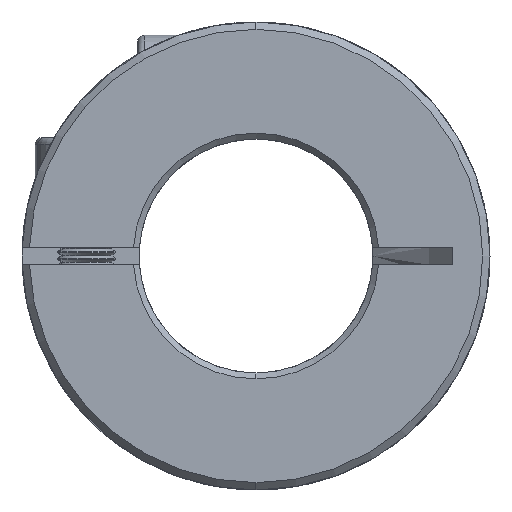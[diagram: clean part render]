
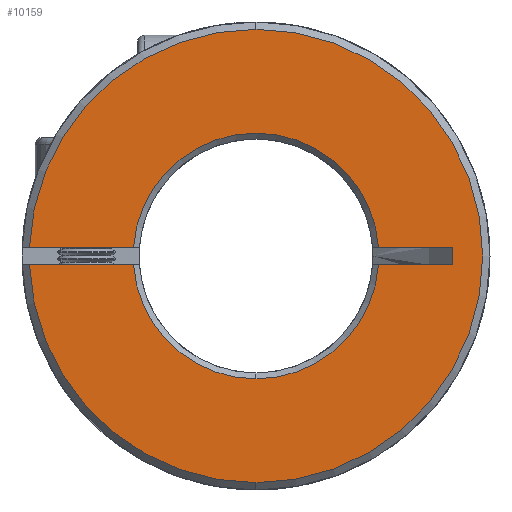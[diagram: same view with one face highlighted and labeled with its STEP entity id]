
A CAD part, front view. The second image highlights one B-rep face of the part: STEP entity #10159.
In plain terms, the highlighted planar face has unit normal (0, -1, 0).
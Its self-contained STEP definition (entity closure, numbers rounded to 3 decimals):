
#126 = FACE_OUTER_BOUND ( 'NONE', #6751, .T. ) ;
#154 = VERTEX_POINT ( 'NONE', #10832 ) ;
#166 = DIRECTION ( 'NONE',  ( 0., 0., -1. ) ) ;
#179 = DIRECTION ( 'NONE',  ( 0., 0., 1. ) ) ;
#469 = CARTESIAN_POINT ( 'NONE',  ( -8.379, 0., -0.6 ) ) ;
#508 = VERTEX_POINT ( 'NONE', #3683 ) ;
#513 = VERTEX_POINT ( 'NONE', #5359 ) ;
#558 = ORIENTED_EDGE ( 'NONE', *, *, #10932, .T. ) ;
#607 = CARTESIAN_POINT ( 'NONE',  ( 0., 0., 0. ) ) ;
#686 = DIRECTION ( 'NONE',  ( 1., 0., 0. ) ) ;
#724 = CARTESIAN_POINT ( 'NONE',  ( -15.488, 0., 0.6 ) ) ;
#1145 = LINE ( 'NONE', #5475, #10714 ) ;
#1182 = VERTEX_POINT ( 'NONE', #5740 ) ;
#1200 = CARTESIAN_POINT ( 'NONE',  ( 0., 0., 0. ) ) ;
#1332 = CIRCLE ( 'NONE', #4320, 8.4 ) ;
#1543 = EDGE_CURVE ( 'NONE', #508, #3706, #10947, .T. ) ;
#1705 = DIRECTION ( 'NONE',  ( 1., 0., 0. ) ) ;
#1850 = ORIENTED_EDGE ( 'NONE', *, *, #9245, .T. ) ;
#1896 = CARTESIAN_POINT ( 'NONE',  ( 13.436, 0., -0.6 ) ) ;
#1969 = VECTOR ( 'NONE', #4880, 1000. ) ;
#2106 = LINE ( 'NONE', #3834, #1969 ) ;
#2279 = CARTESIAN_POINT ( 'NONE',  ( -50., 0., -18.413 ) ) ;
#2284 = DIRECTION ( 'NONE',  ( 0., 0., 1. ) ) ;
#2466 = CARTESIAN_POINT ( 'NONE',  ( -8.379, 0., 0.6 ) ) ;
#2471 = VERTEX_POINT ( 'NONE', #7709 ) ;
#2562 = DIRECTION ( 'NONE',  ( 0., 0., 1. ) ) ;
#3009 = CIRCLE ( 'NONE', #10566, 8.4 ) ;
#3038 = EDGE_CURVE ( 'NONE', #11094, #10804, #3009, .T. ) ;
#3155 = AXIS2_PLACEMENT_3D ( 'NONE', #7590, #8553, #4094 ) ;
#3164 = ORIENTED_EDGE ( 'NONE', *, *, #8100, .T. ) ;
#3196 = CARTESIAN_POINT ( 'NONE',  ( 8.379, 0., -0.6 ) ) ;
#3266 = ORIENTED_EDGE ( 'NONE', *, *, #9287, .T. ) ;
#3274 = AXIS2_PLACEMENT_3D ( 'NONE', #6609, #7489, #2284 ) ;
#3603 = AXIS2_PLACEMENT_3D ( 'NONE', #607, #5787, #9230 ) ;
#3627 = LINE ( 'NONE', #1896, #4166 ) ;
#3683 = CARTESIAN_POINT ( 'NONE',  ( 0., 0., 15.5 ) ) ;
#3706 = VERTEX_POINT ( 'NONE', #724 ) ;
#3834 = CARTESIAN_POINT ( 'NONE',  ( -50., 0., 0.6 ) ) ;
#3848 = ORIENTED_EDGE ( 'NONE', *, *, #7495, .F. ) ;
#4094 = DIRECTION ( 'NONE',  ( 0., 0., 1. ) ) ;
#4166 = VECTOR ( 'NONE', #166, 1000. ) ;
#4320 = AXIS2_PLACEMENT_3D ( 'NONE', #10505, #9553, #2562 ) ;
#4746 = DIRECTION ( 'NONE',  ( 0., 1., 0. ) ) ;
#4824 = LINE ( 'NONE', #10371, #8931 ) ;
#4841 = VERTEX_POINT ( 'NONE', #469 ) ;
#4878 = CARTESIAN_POINT ( 'NONE',  ( 0., 0., -15.5 ) ) ;
#4880 = DIRECTION ( 'NONE',  ( 1., 0., 0. ) ) ;
#4903 = DIRECTION ( 'NONE',  ( 0., 0., 1. ) ) ;
#4940 = PLANE ( 'NONE',  #9744 ) ;
#4965 = DIRECTION ( 'NONE',  ( 0., -1., 0. ) ) ;
#5359 = CARTESIAN_POINT ( 'NONE',  ( 13.436, 0., 0.6 ) ) ;
#5421 = CARTESIAN_POINT ( 'NONE',  ( 8.379, 0., 0.6 ) ) ;
#5475 = CARTESIAN_POINT ( 'NONE',  ( -50., 0., -0.6 ) ) ;
#5511 = DIRECTION ( 'NONE',  ( 0., 0., 1. ) ) ;
#5590 = CIRCLE ( 'NONE', #7505, 15.5 ) ;
#5740 = CARTESIAN_POINT ( 'NONE',  ( 13.436, 0., -0.6 ) ) ;
#5768 = ORIENTED_EDGE ( 'NONE', *, *, #6359, .T. ) ;
#5787 = DIRECTION ( 'NONE',  ( 0., 1., 0. ) ) ;
#6359 = EDGE_CURVE ( 'NONE', #3706, #11094, #2106, .T. ) ;
#6609 = CARTESIAN_POINT ( 'NONE',  ( 0., 0., 0. ) ) ;
#6751 = EDGE_LOOP ( 'NONE', ( #10914, #3164, #1850, #7529, #5768, #9454, #7704, #10363, #3848, #558, #3266 ) ) ;
#7194 = CIRCLE ( 'NONE', #3155, 15.5 ) ;
#7328 = CARTESIAN_POINT ( 'NONE',  ( 0., 0., 0. ) ) ;
#7412 = EDGE_CURVE ( 'NONE', #154, #4841, #4824, .T. ) ;
#7489 = DIRECTION ( 'NONE',  ( 0., -1., 0. ) ) ;
#7495 = EDGE_CURVE ( 'NONE', #10111, #1182, #1145, .T. ) ;
#7505 = AXIS2_PLACEMENT_3D ( 'NONE', #7328, #4965, #179 ) ;
#7529 = ORIENTED_EDGE ( 'NONE', *, *, #1543, .T. ) ;
#7590 = CARTESIAN_POINT ( 'NONE',  ( 0., 0., 0. ) ) ;
#7637 = EDGE_CURVE ( 'NONE', #10804, #513, #10155, .T. ) ;
#7704 = ORIENTED_EDGE ( 'NONE', *, *, #7637, .T. ) ;
#7709 = CARTESIAN_POINT ( 'NONE',  ( 0., 0., -8.4 ) ) ;
#8100 = EDGE_CURVE ( 'NONE', #154, #8215, #5590, .T. ) ;
#8215 = VERTEX_POINT ( 'NONE', #4878 ) ;
#8553 = DIRECTION ( 'NONE',  ( 0., -1., 0. ) ) ;
#8931 = VECTOR ( 'NONE', #1705, 1000. ) ;
#9034 = DIRECTION ( 'NONE',  ( 1., 0., 0. ) ) ;
#9230 = DIRECTION ( 'NONE',  ( 0., 0., 1. ) ) ;
#9245 = EDGE_CURVE ( 'NONE', #8215, #508, #7194, .T. ) ;
#9287 = EDGE_CURVE ( 'NONE', #2471, #4841, #1332, .T. ) ;
#9454 = ORIENTED_EDGE ( 'NONE', *, *, #3038, .T. ) ;
#9501 = CARTESIAN_POINT ( 'NONE',  ( -50., 0., 0.6 ) ) ;
#9553 = DIRECTION ( 'NONE',  ( 0., 1., 0. ) ) ;
#9744 = AXIS2_PLACEMENT_3D ( 'NONE', #2279, #10134, #4903 ) ;
#10111 = VERTEX_POINT ( 'NONE', #3196 ) ;
#10134 = DIRECTION ( 'NONE',  ( 0., 1., 0. ) ) ;
#10155 = LINE ( 'NONE', #9501, #10422 ) ;
#10159 = ADVANCED_FACE ( 'NONE', ( #126 ), #4940, .F. ) ;
#10363 = ORIENTED_EDGE ( 'NONE', *, *, #11248, .T. ) ;
#10371 = CARTESIAN_POINT ( 'NONE',  ( -50., 0., -0.6 ) ) ;
#10422 = VECTOR ( 'NONE', #686, 1000. ) ;
#10505 = CARTESIAN_POINT ( 'NONE',  ( 0., 0., 0. ) ) ;
#10566 = AXIS2_PLACEMENT_3D ( 'NONE', #1200, #4746, #5511 ) ;
#10714 = VECTOR ( 'NONE', #9034, 1000. ) ;
#10804 = VERTEX_POINT ( 'NONE', #5421 ) ;
#10832 = CARTESIAN_POINT ( 'NONE',  ( -15.488, 0., -0.6 ) ) ;
#10914 = ORIENTED_EDGE ( 'NONE', *, *, #7412, .F. ) ;
#10932 = EDGE_CURVE ( 'NONE', #10111, #2471, #11154, .T. ) ;
#10947 = CIRCLE ( 'NONE', #3274, 15.5 ) ;
#11094 = VERTEX_POINT ( 'NONE', #2466 ) ;
#11154 = CIRCLE ( 'NONE', #3603, 8.4 ) ;
#11248 = EDGE_CURVE ( 'NONE', #513, #1182, #3627, .T. ) ;
